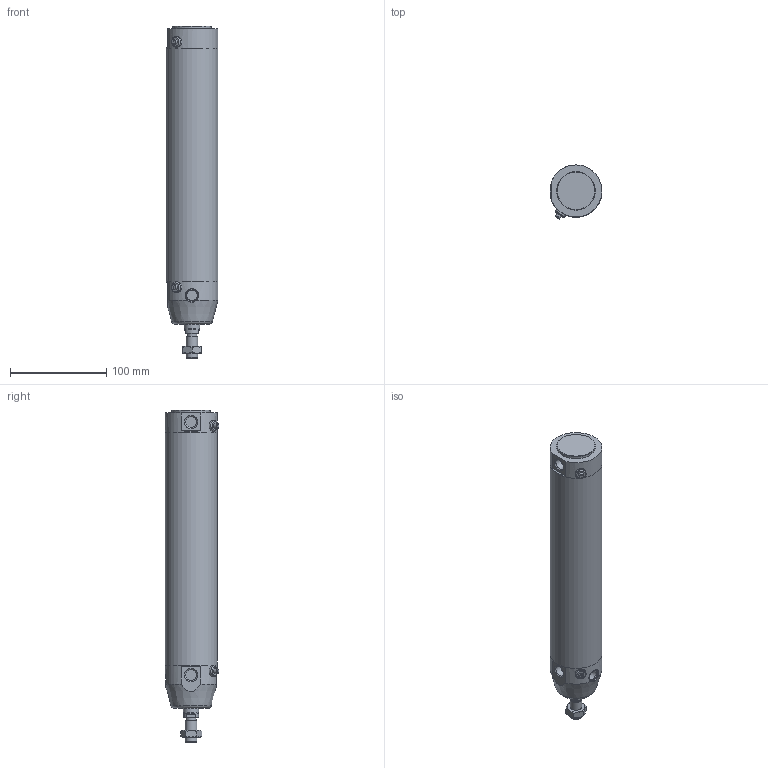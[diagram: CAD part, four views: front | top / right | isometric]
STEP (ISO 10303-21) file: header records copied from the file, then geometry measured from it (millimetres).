
FILE_DESCRIPTION(/* description */ (''),/* implementation_level */ '2;1');
FILE_NAME(/* name */ 'I:\Area Tecnica\Documenti\A-Manieri\_Inventor\12X\12X#E_###_####_#_#\12XBE_050_0200_#_#.stp',/* time_stamp */ '2015-05-08T13:58:07+02:00',/* author */ ('maniean1'),/* organization */ ('Pneumax S.p.A.'),/* preprocessor_version */ 'ST-DEVELOPER v15.2',/* originating_system */ 'Autodesk Inventor 2014',/* authorisation */ '');
FILE_SCHEMA (('AUTOMOTIVE_DESIGN { 1 0 10303 214 3 1 1 }'));
Length unit declared in the file: millimetre
Products named in the file (6): C1250_619-0200; 12X50_623; S12X50_0200; 12X_50_11; 12X50_612; 12XBE_050_0200_#_#
Bounding box: 54 x 55.88 x 345 mm (x, y, z)
Volume: 344967.6 mm3; surface area: 127298.8 mm2
Topology: 5 solids, 5 shells, 83 faces, 174 edges, 112 vertices
Faces by surface type: plane 45, cylinder 22, cone 13, torus 3
Full cylindrical faces by diameter (mm): 5 x2, 10.2 x1, 10.9 x2, 11 x2, 11.4 x2, 12 x2, 14 x1, 14.1 x2, 15.6 x1, 16 x1, 40 x1, 50 x2, 54 x3
Entity records: 2203 total; most frequent: CARTESIAN_POINT 508, DIRECTION 359, ORIENTED_EDGE 254, AXIS2_PLACEMENT_3D 161, EDGE_LOOP 136, EDGE_CURVE 127, VERTEX_POINT 101, ADVANCED_FACE 83
